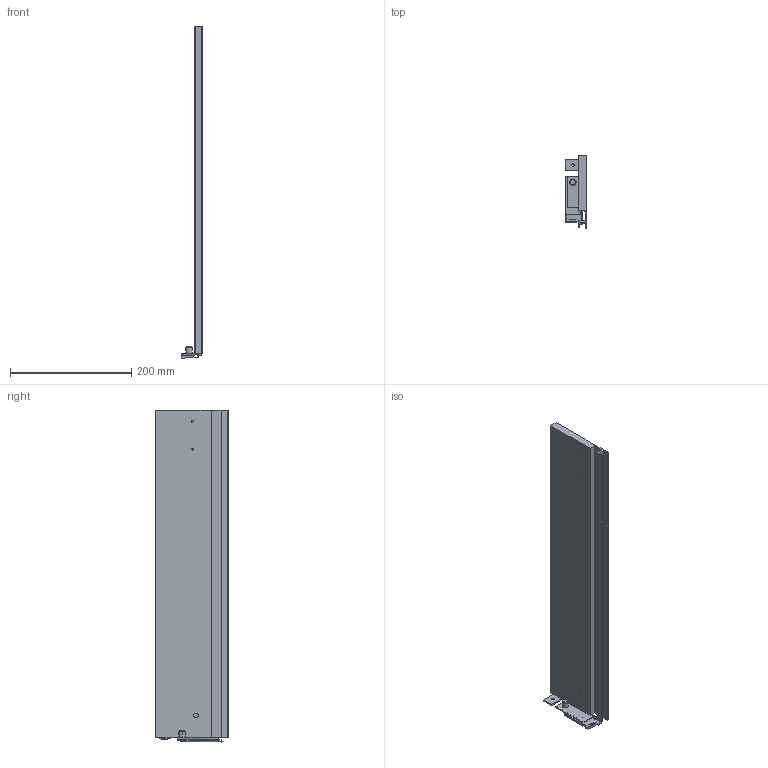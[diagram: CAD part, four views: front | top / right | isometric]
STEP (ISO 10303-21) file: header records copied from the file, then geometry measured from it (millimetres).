
FILE_DESCRIPTION (( 'STEP AP214' ), '1' );
FILE_NAME ('Vionaro_Alu-Zarge_H121_NL550_RE.STEP', '2014-08-18T11:20:46', ( '' ), ( '' ), 'SwSTEP 2.0', 'SolidWorks 2013', '' );
FILE_SCHEMA (( 'AUTOMOTIVE_DESIGN' ));
Length unit declared in the file: millimetre
Products named in the file (1): Vionaro_Alu-Zarge_H121_NL550_RE
Bounding box: 35.61 x 121 x 547.9 mm (x, y, z)
Volume: 715894.7 mm3; surface area: 176345.1 mm2
Topology: 1 solids, 1 shells, 112 faces, 299 edges, 196 vertices
Faces by surface type: plane 88, cylinder 20, cone 4
Entity records: 3491 total; most frequent: CARTESIAN_POINT 614, ORIENTED_EDGE 598, DIRECTION 569, EDGE_CURVE 299, LINE 251, VECTOR 251, VERTEX_POINT 196, AXIS2_PLACEMENT_3D 159
